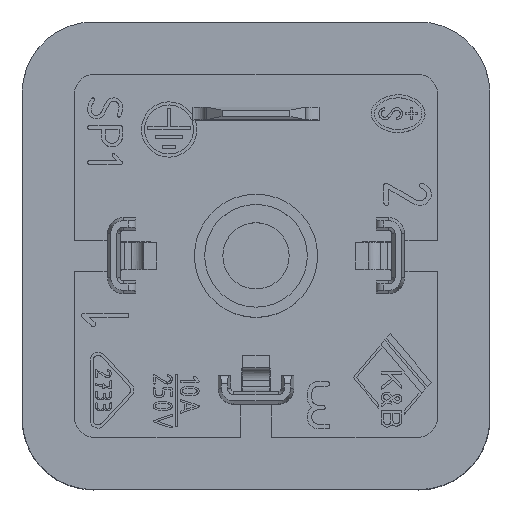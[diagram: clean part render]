
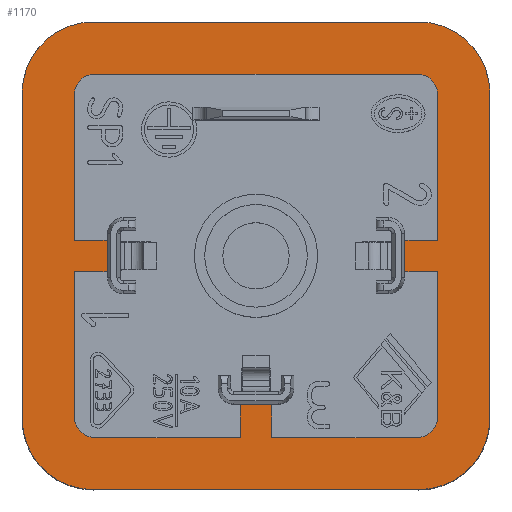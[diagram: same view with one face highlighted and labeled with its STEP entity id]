
A CAD part, top view. The second image highlights one B-rep face of the part: STEP entity #1170.
In plain terms, the highlighted planar face has unit normal (0, 0, 1).
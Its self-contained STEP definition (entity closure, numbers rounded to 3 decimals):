
#1170=ADVANCED_FACE('',(#3422,#3423),#1949,.T.);
#1949=PLANE('',#14530);
#2443=CIRCLE('',#14522,1.3);
#2444=CIRCLE('',#14523,1.3);
#2445=CIRCLE('',#14524,1.3);
#2446=CIRCLE('',#14525,1.3);
#2447=CIRCLE('',#14526,4.5);
#2448=CIRCLE('',#14527,4.5);
#2449=CIRCLE('',#14528,4.5);
#2450=CIRCLE('',#14529,4.5);
#3422=FACE_BOUND('',#3593,.T.);
#3423=FACE_BOUND('',#3594,.T.);
#3593=EDGE_LOOP('',(#4980,#4981,#4982,#4983,#4984,#4985,#4986,#4987,#4988,
#4989,#4990,#4991,#4992,#4993,#4994,#4995,#4996,#4997,#4998,#4999));
#3594=EDGE_LOOP('',(#5000,#5001,#5002,#5003,#5004,#5005,#5006,#5007));
#4980=ORIENTED_EDGE('',*,*,#10338,.F.);
#4981=ORIENTED_EDGE('',*,*,#10389,.T.);
#4982=ORIENTED_EDGE('',*,*,#10206,.T.);
#4983=ORIENTED_EDGE('',*,*,#10390,.T.);
#4984=ORIENTED_EDGE('',*,*,#10391,.T.);
#4985=ORIENTED_EDGE('',*,*,#10392,.T.);
#4986=ORIENTED_EDGE('',*,*,#10211,.F.);
#4987=ORIENTED_EDGE('',*,*,#10393,.F.);
#4988=ORIENTED_EDGE('',*,*,#10344,.T.);
#4989=ORIENTED_EDGE('',*,*,#10394,.T.);
#4990=ORIENTED_EDGE('',*,*,#10395,.F.);
#4991=ORIENTED_EDGE('',*,*,#10396,.T.);
#4992=ORIENTED_EDGE('',*,*,#10214,.F.);
#4993=ORIENTED_EDGE('',*,*,#10397,.F.);
#4994=ORIENTED_EDGE('',*,*,#10341,.F.);
#4995=ORIENTED_EDGE('',*,*,#10398,.T.);
#4996=ORIENTED_EDGE('',*,*,#10399,.F.);
#4997=ORIENTED_EDGE('',*,*,#10400,.T.);
#4998=ORIENTED_EDGE('',*,*,#10217,.F.);
#4999=ORIENTED_EDGE('',*,*,#10401,.F.);
#5000=ORIENTED_EDGE('',*,*,#10388,.F.);
#5001=ORIENTED_EDGE('',*,*,#10402,.T.);
#5002=ORIENTED_EDGE('',*,*,#10366,.F.);
#5003=ORIENTED_EDGE('',*,*,#10403,.T.);
#5004=ORIENTED_EDGE('',*,*,#10404,.F.);
#5005=ORIENTED_EDGE('',*,*,#10405,.T.);
#5006=ORIENTED_EDGE('',*,*,#10370,.F.);
#5007=ORIENTED_EDGE('',*,*,#10406,.T.);
#8857=VERTEX_POINT('',#20073);
#8858=VERTEX_POINT('',#20075);
#8861=VERTEX_POINT('',#20084);
#8862=VERTEX_POINT('',#20086);
#8863=VERTEX_POINT('',#20090);
#8864=VERTEX_POINT('',#20092);
#8865=VERTEX_POINT('',#20096);
#8866=VERTEX_POINT('',#20098);
#8986=VERTEX_POINT('',#20594);
#8987=VERTEX_POINT('',#20595);
#8988=VERTEX_POINT('',#20600);
#8989=VERTEX_POINT('',#20601);
#8990=VERTEX_POINT('',#20606);
#8991=VERTEX_POINT('',#20607);
#9006=VERTEX_POINT('',#20660);
#9009=VERTEX_POINT('',#20665);
#9010=VERTEX_POINT('',#20669);
#9013=VERTEX_POINT('',#20674);
#9026=VERTEX_POINT('',#20777);
#9029=VERTEX_POINT('',#20782);
#9030=VERTEX_POINT('',#20787);
#9031=VERTEX_POINT('',#20789);
#9032=VERTEX_POINT('',#20793);
#9033=VERTEX_POINT('',#20795);
#9034=VERTEX_POINT('',#20799);
#9035=VERTEX_POINT('',#20801);
#9036=VERTEX_POINT('',#20806);
#9037=VERTEX_POINT('',#20808);
#10206=EDGE_CURVE('',#8858,#8857,#12018,.T.);
#10211=EDGE_CURVE('',#8861,#8862,#12021,.T.);
#10214=EDGE_CURVE('',#8863,#8864,#12024,.T.);
#10217=EDGE_CURVE('',#8865,#8866,#12027,.T.);
#10338=EDGE_CURVE('',#8986,#8987,#12080,.T.);
#10341=EDGE_CURVE('',#8988,#8989,#12083,.T.);
#10344=EDGE_CURVE('',#8990,#8991,#12086,.T.);
#10366=EDGE_CURVE('',#9009,#9006,#12098,.T.);
#10370=EDGE_CURVE('',#9013,#9010,#12101,.T.);
#10388=EDGE_CURVE('',#9029,#9026,#12109,.T.);
#10389=EDGE_CURVE('',#8986,#8858,#2443,.T.);
#10390=EDGE_CURVE('',#8857,#9030,#2444,.T.);
#10391=EDGE_CURVE('',#9030,#9031,#12110,.T.);
#10392=EDGE_CURVE('',#9031,#8862,#12111,.T.);
#10393=EDGE_CURVE('',#8990,#8861,#12112,.T.);
#10394=EDGE_CURVE('',#8991,#9032,#2445,.T.);
#10395=EDGE_CURVE('',#9033,#9032,#12113,.T.);
#10396=EDGE_CURVE('',#9033,#8864,#12114,.T.);
#10397=EDGE_CURVE('',#8989,#8863,#12115,.T.);
#10398=EDGE_CURVE('',#8988,#9034,#2446,.T.);
#10399=EDGE_CURVE('',#9035,#9034,#12116,.T.);
#10400=EDGE_CURVE('',#9035,#8866,#12117,.T.);
#10401=EDGE_CURVE('',#8987,#8865,#12118,.T.);
#10402=EDGE_CURVE('',#9029,#9006,#2447,.T.);
#10403=EDGE_CURVE('',#9009,#9036,#2448,.T.);
#10404=EDGE_CURVE('',#9037,#9036,#12119,.T.);
#10405=EDGE_CURVE('',#9037,#9010,#2449,.T.);
#10406=EDGE_CURVE('',#9013,#9026,#2450,.T.);
#12018=LINE('',#20074,#13220);
#12021=LINE('',#20085,#13223);
#12024=LINE('',#20091,#13226);
#12027=LINE('',#20097,#13229);
#12080=LINE('',#20593,#13282);
#12083=LINE('',#20599,#13285);
#12086=LINE('',#20605,#13288);
#12098=LINE('',#20666,#13300);
#12101=LINE('',#20675,#13303);
#12109=LINE('',#20783,#13311);
#12110=LINE('',#20788,#13312);
#12111=LINE('',#20790,#13313);
#12112=LINE('',#20791,#13314);
#12113=LINE('',#20794,#13315);
#12114=LINE('',#20796,#13316);
#12115=LINE('',#20797,#13317);
#12116=LINE('',#20800,#13318);
#12117=LINE('',#20802,#13319);
#12118=LINE('',#20803,#13320);
#12119=LINE('',#20807,#13321);
#13220=VECTOR('',#15539,1.);
#13223=VECTOR('',#15550,1.);
#13226=VECTOR('',#15555,1.);
#13229=VECTOR('',#15560,1.);
#13282=VECTOR('',#15643,1.);
#13285=VECTOR('',#15648,1.);
#13288=VECTOR('',#15653,1.);
#13300=VECTOR('',#15691,1.);
#13303=VECTOR('',#15698,1.);
#13311=VECTOR('',#15714,1.);
#13312=VECTOR('',#15721,1.);
#13313=VECTOR('',#15722,1.);
#13314=VECTOR('',#15723,1.);
#13315=VECTOR('',#15726,1.);
#13316=VECTOR('',#15727,1.);
#13317=VECTOR('',#15728,1.);
#13318=VECTOR('',#15731,1.);
#13319=VECTOR('',#15732,1.);
#13320=VECTOR('',#15733,1.);
#13321=VECTOR('',#15738,1.);
#14522=AXIS2_PLACEMENT_3D('',#20785,#15717,#15718);
#14523=AXIS2_PLACEMENT_3D('',#20786,#15719,#15720);
#14524=AXIS2_PLACEMENT_3D('',#20792,#15724,#15725);
#14525=AXIS2_PLACEMENT_3D('',#20798,#15729,#15730);
#14526=AXIS2_PLACEMENT_3D('',#20804,#15734,#15735);
#14527=AXIS2_PLACEMENT_3D('',#20805,#15736,#15737);
#14528=AXIS2_PLACEMENT_3D('',#20809,#15739,#15740);
#14529=AXIS2_PLACEMENT_3D('',#20810,#15741,#15742);
#14530=AXIS2_PLACEMENT_3D('',#20811,#15743,#15744);
#15539=DIRECTION('',(1.,0.,0.));
#15550=DIRECTION('',(0.,1.,0.));
#15555=DIRECTION('',(1.,0.,0.));
#15560=DIRECTION('',(0.,-1.,0.));
#15643=DIRECTION('',(0.,-1.,0.));
#15648=DIRECTION('',(1.,0.,0.));
#15653=DIRECTION('',(0.,-1.,0.));
#15691=DIRECTION('',(-1.,0.,0.));
#15698=DIRECTION('',(1.,0.,0.));
#15714=DIRECTION('',(0.,1.,0.));
#15717=DIRECTION('',(0.,0.,-1.));
#15718=DIRECTION('',(1.,0.,0.));
#15719=DIRECTION('',(0.,0.,-1.));
#15720=DIRECTION('',(1.,0.,0.));
#15721=DIRECTION('',(0.,-1.,0.));
#15722=DIRECTION('',(-1.,0.,0.));
#15723=DIRECTION('',(-1.,0.,0.));
#15724=DIRECTION('',(0.,0.,-1.));
#15725=DIRECTION('',(1.,0.,0.));
#15726=DIRECTION('',(1.,0.,0.));
#15727=DIRECTION('',(0.,1.,0.));
#15728=DIRECTION('',(0.,1.,0.));
#15729=DIRECTION('',(0.,0.,-1.));
#15730=DIRECTION('',(1.,0.,0.));
#15731=DIRECTION('',(0.,-1.,0.));
#15732=DIRECTION('',(1.,0.,0.));
#15733=DIRECTION('',(1.,0.,0.));
#15734=DIRECTION('',(0.,0.,1.));
#15735=DIRECTION('',(1.,0.,0.));
#15736=DIRECTION('',(0.,0.,1.));
#15737=DIRECTION('',(1.,0.,0.));
#15738=DIRECTION('',(0.,-1.,0.));
#15739=DIRECTION('',(0.,0.,1.));
#15740=DIRECTION('',(1.,0.,0.));
#15741=DIRECTION('',(0.,0.,1.));
#15742=DIRECTION('',(1.,0.,0.));
#15743=DIRECTION('',(0.,0.,1.));
#15744=DIRECTION('',(1.,0.,0.));
#20073=CARTESIAN_POINT('',(25.,26.3,20.34));
#20074=CARTESIAN_POINT('',(3.3,26.3,20.34));
#20075=CARTESIAN_POINT('',(4.6,26.3,20.34));
#20084=CARTESIAN_POINT('',(24.225,13.8,20.34));
#20085=CARTESIAN_POINT('',(24.225,13.8,20.34));
#20086=CARTESIAN_POINT('',(24.225,15.8,20.34));
#20090=CARTESIAN_POINT('',(13.8,5.375,20.34));
#20091=CARTESIAN_POINT('',(13.8,5.375,20.34));
#20092=CARTESIAN_POINT('',(15.8,5.375,20.34));
#20096=CARTESIAN_POINT('',(5.375,15.8,20.34));
#20097=CARTESIAN_POINT('',(5.375,15.8,20.34));
#20098=CARTESIAN_POINT('',(5.375,13.8,20.34));
#20593=CARTESIAN_POINT('',(3.3,26.3,20.34));
#20594=CARTESIAN_POINT('',(3.3,25.,20.34));
#20595=CARTESIAN_POINT('',(3.3,15.8,20.34));
#20599=CARTESIAN_POINT('',(3.3,3.3,20.34));
#20600=CARTESIAN_POINT('',(4.6,3.3,20.34));
#20601=CARTESIAN_POINT('',(13.8,3.3,20.34));
#20605=CARTESIAN_POINT('',(26.3,26.3,20.34));
#20606=CARTESIAN_POINT('',(26.3,13.8,20.34));
#20607=CARTESIAN_POINT('',(26.3,4.6,20.34));
#20660=CARTESIAN_POINT('',(4.5,0.,20.34));
#20665=CARTESIAN_POINT('',(25.1,0.,20.34));
#20666=CARTESIAN_POINT('',(14.8,0.,20.34));
#20669=CARTESIAN_POINT('',(25.1,29.6,20.34));
#20674=CARTESIAN_POINT('',(4.5,29.6,20.34));
#20675=CARTESIAN_POINT('',(14.8,29.6,20.34));
#20777=CARTESIAN_POINT('',(0.,25.1,20.34));
#20782=CARTESIAN_POINT('',(0.,4.5,20.34));
#20783=CARTESIAN_POINT('',(0.,14.8,20.34));
#20785=CARTESIAN_POINT('',(4.6,25.,20.34));
#20786=CARTESIAN_POINT('',(25.,25.,20.34));
#20787=CARTESIAN_POINT('',(26.3,25.,20.34));
#20788=CARTESIAN_POINT('',(26.3,26.3,20.34));
#20789=CARTESIAN_POINT('',(26.3,15.8,20.34));
#20790=CARTESIAN_POINT('',(26.3,15.8,20.34));
#20791=CARTESIAN_POINT('',(26.3,13.8,20.34));
#20792=CARTESIAN_POINT('',(25.,4.6,20.34));
#20793=CARTESIAN_POINT('',(25.,3.3,20.34));
#20794=CARTESIAN_POINT('',(3.3,3.3,20.34));
#20795=CARTESIAN_POINT('',(15.8,3.3,20.34));
#20796=CARTESIAN_POINT('',(15.8,3.3,20.34));
#20797=CARTESIAN_POINT('',(13.8,3.3,20.34));
#20798=CARTESIAN_POINT('',(4.6,4.6,20.34));
#20799=CARTESIAN_POINT('',(3.3,4.6,20.34));
#20800=CARTESIAN_POINT('',(3.3,26.3,20.34));
#20801=CARTESIAN_POINT('',(3.3,13.8,20.34));
#20802=CARTESIAN_POINT('',(3.3,13.8,20.34));
#20803=CARTESIAN_POINT('',(3.3,15.8,20.34));
#20804=CARTESIAN_POINT('',(4.5,4.5,20.34));
#20805=CARTESIAN_POINT('',(25.1,4.5,20.34));
#20806=CARTESIAN_POINT('',(29.6,4.5,20.34));
#20807=CARTESIAN_POINT('',(29.6,14.8,20.34));
#20808=CARTESIAN_POINT('',(29.6,25.1,20.34));
#20809=CARTESIAN_POINT('',(25.1,25.1,20.34));
#20810=CARTESIAN_POINT('',(4.5,25.1,20.34));
#20811=CARTESIAN_POINT('',(14.8,14.8,20.34));
